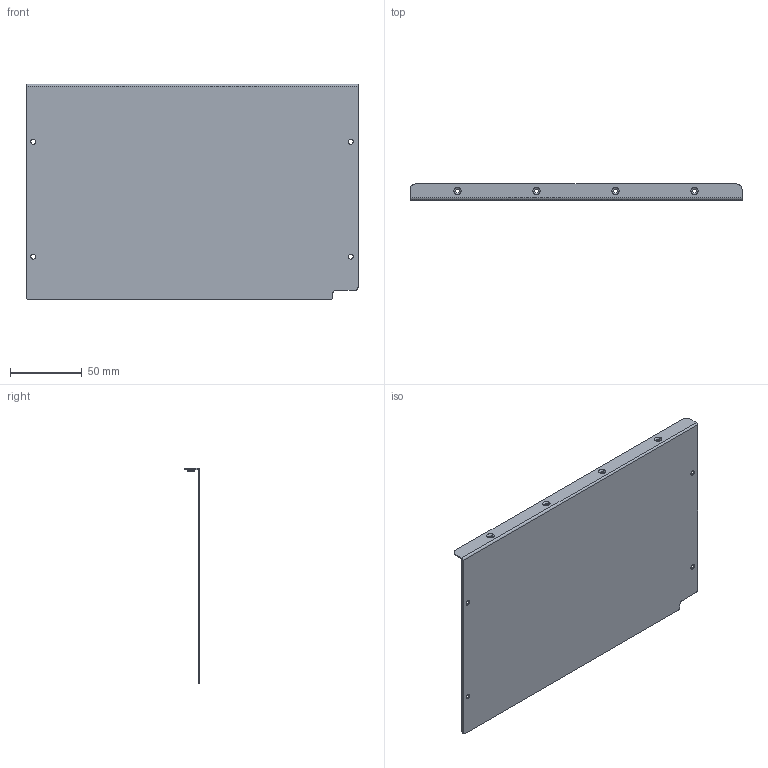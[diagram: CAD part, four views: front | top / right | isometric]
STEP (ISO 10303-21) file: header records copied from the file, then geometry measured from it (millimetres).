
FILE_DESCRIPTION((''),'2;1');
FILE_NAME('OCP3-FIXTURE-CVR-REAR-DSFF','2025-03-17T16:10:26',('T_Dawson'),('Dell Technologies'),'CREO PARAMETRIC BY PTC INC, 2023294','CREO PARAMETRIC BY PTC INC, 2023294','');
FILE_SCHEMA(('AUTOMOTIVE_DESIGN { 1 0 10303 214 1 1 1 1 }'));
Length unit declared in the file: millimetre
Products named in the file (1): OCP3-FIXTURE-CVR-REAR-DSFF
Bounding box: 231.2 x 11 x 150 mm (x, y, z)
Volume: 36768 mm3; surface area: 74392.9 mm2
Topology: 1 solids, 1 shells, 70 faces, 173 edges, 124 vertices
Faces by surface type: cylinder 32, plane 22, torus 16
Entity records: 3616 total; most frequent: DIRECTION 545, CARTESIAN_POINT 440, ORIENTED_EDGE 328, AXIS2_PLACEMENT_3D 221, PRESENTATION_STYLE_ASSIGNMENT 176, STYLED_ITEM 176, CURVE_STYLE 175, EDGE_CURVE 164
